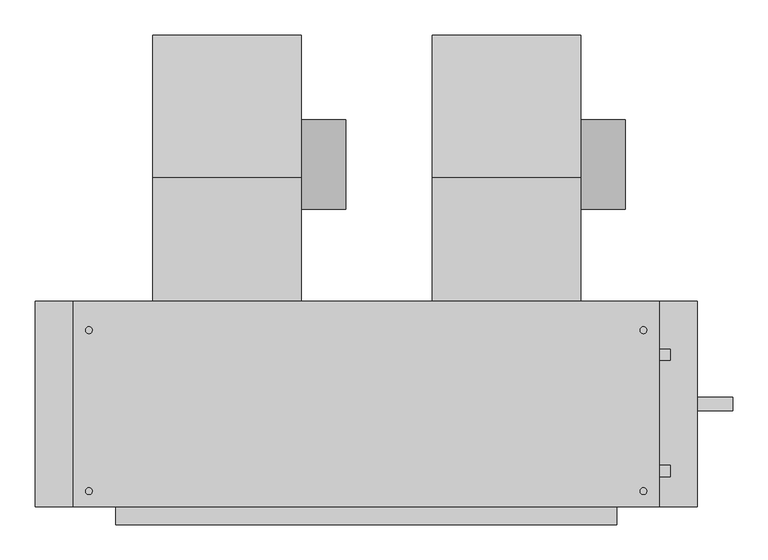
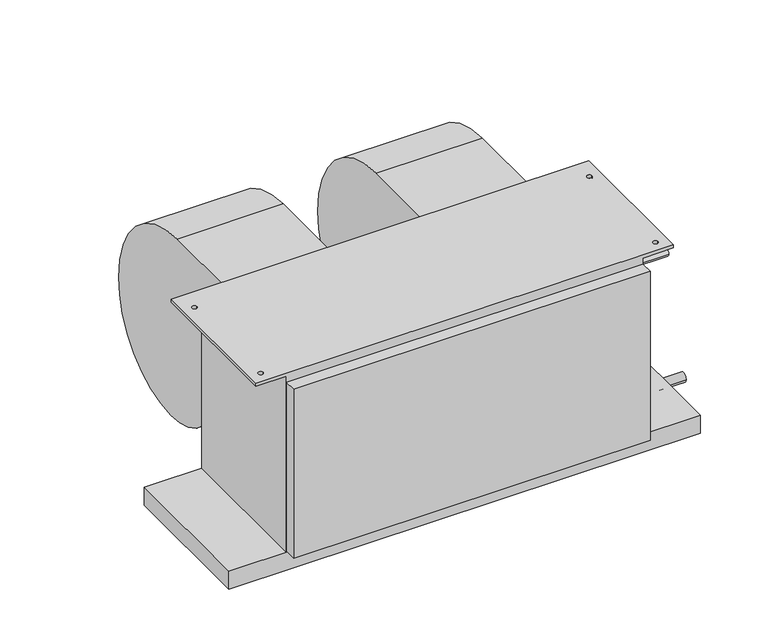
"""IFC4 building model written with IfcOpenShell, lengths in millimetres: proxy geometry, Concealed_High_Capacity_Horizontal_Fan_Coil_Unit_-_42DAA_-_CARRIER_-_2-Pipe_RH_2022 : Size 12 - 277v/60Hz/1Ph - 6 Row 9.0kW."""

from ifc_helpers import new_model, si_unit, point, frame, frame_2d, origin, place, context, project, spatial, polyline, circle_curve, trimmed, segment, composite_curve, outline, extrude, source, transform, mapped, element, save
from ifc_brep_helpers import plane_surface, cylinder_surface, revolved_surface, advanced_brep


def mechanical_equipment_be0efeef(model_context):
    return source(origin(), model_context, "Body", "SolidModel", [
        extrude(outline(composite_curve([segment(trimmed(circle_curve(frame_2d((102.0007598, -206.8897468)), 63.5), [point((165.5007598, -206.8897468))], [point((38.5007598, -206.8897468))], False, "CARTESIAN"), True, "CONTINUOUS"), segment(trimmed(circle_curve(frame_2d((102.0007598, -206.8897468)), 63.5), [point((38.5007598, -206.8897468))], [point((165.5007598, -206.8897468))], False, "CARTESIAN"), True, "CONTINUOUS")], self_intersect=False)), frame((60.325, 0.0, 0.0), z_axis=(1.0, 0.0, 0.0), x_axis=(0.0, 1.0, 0.0)), (0.0, 0.0, 1.0), 63.5),
        advanced_brep(
        [(-150.749, 285.5155957, -222.029602), (-150.749, 104.6226, -403.64664), (-150.749, -50.9016, -277.10638), (-150.749, -92.075, -277.10638), (-150.749, -92.075, -19.05), (-150.749, 83.0080093, -19.05), (60.325, 285.5155957, -222.029602), (60.325, 83.0080093, -19.05), (60.325, -92.075, -19.05), (60.325, -92.075, -277.10638), (60.325, -50.9016, -277.10638), (60.325, 104.622599, -403.6457839)],
        [
            (0, 1, circle_curve(frame((-150.749, 104.44226, -222.57258), z_axis=(-1.0, 0.0, 0.0), x_axis=(0.0, -1.0, 0.0)), 181.0741498)),
            (1, 2, circle_curve(frame((-150.749, 104.44226, -245.02364), z_axis=(-1.0, 0.0, 0.0), x_axis=(0.0, -1.0, 0.0)), 158.6222464)),
            (2, 3),
            (3, 4),
            (4, 5),
            (5, 0, circle_curve(frame((-150.749, 81.9912, -222.57258), z_axis=(-1.0, 0.0, 0.0), x_axis=(0.0, -1.0, 0.0)), 203.52512)),
            (6, 7, circle_curve(frame((60.325, 81.9912, -222.57258), z_axis=(1.0, 0.0, 0.0), x_axis=(0.0, -1.0, 0.0)), 203.52512)),
            (7, 8),
            (8, 9),
            (9, 10),
            (10, 11, circle_curve(frame((60.325, 104.44226, -245.02364), z_axis=(1.0, 0.0, 0.0), x_axis=(0.0, -1.0, 0.0)), 158.6222464)),
            (11, 6, circle_curve(frame((60.325, 104.44226, -222.57258), z_axis=(1.0, 0.0, 0.0), x_axis=(0.0, -1.0, 0.0)), 181.0741498)),
            (0, 6),
            (11, 1),
            (10, 2),
            (9, 3),
            (8, 4),
            (7, 5),
        ],
        [
            plane_surface(frame((-150.749, -76.6318898, -222.57258), z_axis=(-1.0, 0.0, 0.0), x_axis=(0.0, 0.0, 1.0))),
            plane_surface(frame((60.325, -76.6318898, -222.57258), z_axis=(1.0, 0.0, 0.0), x_axis=(0.0, 0.0, -1.0))),
            cylinder_surface(frame((60.325, 104.44226, -222.57258), z_axis=(-1.0, 0.0, 0.0), x_axis=(0.0, -1.0, 0.0)), 181.0741498),
            cylinder_surface(frame((60.325, 104.44226, -245.02364), z_axis=(-1.0, 0.0, 0.0), x_axis=(0.0, -1.0, 0.0)), 158.6222464),
            plane_surface(frame((-150.749, -50.9016, -277.10638), z_axis=(0.0, 0.0, -1.0), x_axis=(1.0, 0.0, 0.0))),
            plane_surface(frame((-150.749, -92.075, -277.10638), z_axis=(0.0, -1.0, 0.0), x_axis=(1.0, 0.0, 0.0))),
            plane_surface(frame((-150.749, -92.075, -19.05), z_axis=(0.0, 0.0, 1.0), x_axis=(1.0, 0.0, 0.0))),
            cylinder_surface(frame((60.325, 81.9912, -222.57258), z_axis=(-1.0, 0.0, 0.0), x_axis=(0.0, -1.0, 0.0)), 203.52512),
        ],
        [
            (0, [[1, 2, 3, 4, 5, 6]]),
            (1, [[7, 8, 9, 10, 11, 12]]),
            (2, [[-1, 13, -12, 14]]),
            (3, [[-2, -14, -11, 15]]),
            (4, [[-3, -15, -10, 16]]),
            (5, [[-4, -16, -9, 17]]),
            (6, [[-5, -17, -8, 18]]),
            (7, [[-6, -18, -7, -13]]),
        ],
    ),
        extrude(outline(composite_curve([segment(trimmed(circle_curve(frame_2d((102.0007598, -206.8897468)), 63.5), [point((165.5007598, -206.8897468))], [point((38.5007598, -206.8897468))], False, "CARTESIAN"), True, "CONTINUOUS"), segment(trimmed(circle_curve(frame_2d((102.0007598, -206.8897468)), 63.5), [point((38.5007598, -206.8897468))], [point((165.5007598, -206.8897468))], False, "CARTESIAN"), True, "CONTINUOUS")], self_intersect=False)), frame((457.2, 0.0, 0.0), z_axis=(1.0, 0.0, 0.0), x_axis=(0.0, 1.0, 0.0)), (0.0, 0.0, 1.0), 63.5),
        advanced_brep(
        [(246.126, 285.5155957, -222.029602), (246.126, 104.6226, -403.64664), (246.126, -50.9016, -277.10638), (246.126, -92.075, -277.10638), (246.126, -92.075, -19.05), (246.126, 83.0080093, -19.05), (457.2, 285.5155957, -222.029602), (457.2, 83.0080093, -19.05), (457.2, -92.075, -19.05), (457.2, -92.075, -277.10638), (457.2, -50.9016, -277.10638), (457.2, 104.622599, -403.6457839)],
        [
            (0, 1, circle_curve(frame((246.126, 104.44226, -222.57258), z_axis=(-1.0, 0.0, 0.0), x_axis=(0.0, -1.0, 0.0)), 181.0741498)),
            (1, 2, circle_curve(frame((246.126, 104.44226, -245.02364), z_axis=(-1.0, 0.0, 0.0), x_axis=(0.0, -1.0, 0.0)), 158.6222464)),
            (2, 3),
            (3, 4),
            (4, 5),
            (5, 0, circle_curve(frame((246.126, 81.9912, -222.57258), z_axis=(-1.0, 0.0, 0.0), x_axis=(0.0, -1.0, 0.0)), 203.52512)),
            (6, 7, circle_curve(frame((457.2, 81.9912, -222.57258), z_axis=(1.0, 0.0, 0.0), x_axis=(0.0, -1.0, 0.0)), 203.52512)),
            (7, 8),
            (8, 9),
            (9, 10),
            (10, 11, circle_curve(frame((457.2, 104.44226, -245.02364), z_axis=(1.0, 0.0, 0.0), x_axis=(0.0, -1.0, 0.0)), 158.6222464)),
            (11, 6, circle_curve(frame((457.2, 104.44226, -222.57258), z_axis=(1.0, 0.0, 0.0), x_axis=(0.0, -1.0, 0.0)), 181.0741498)),
            (0, 6),
            (11, 1),
            (10, 2),
            (9, 3),
            (8, 4),
            (7, 5),
        ],
        [
            plane_surface(frame((246.126, -76.6318898, -222.57258), z_axis=(-1.0, 0.0, 0.0), x_axis=(0.0, 0.0, 1.0))),
            plane_surface(frame((457.2, -76.6318898, -222.57258), z_axis=(1.0, 0.0, 0.0), x_axis=(0.0, 0.0, -1.0))),
            cylinder_surface(frame((457.2, 104.44226, -222.57258), z_axis=(-1.0, 0.0, 0.0), x_axis=(0.0, -1.0, 0.0)), 181.0741498),
            cylinder_surface(frame((457.2, 104.44226, -245.02364), z_axis=(-1.0, 0.0, 0.0), x_axis=(0.0, -1.0, 0.0)), 158.6222464),
            plane_surface(frame((246.126, -50.9016, -277.10638), z_axis=(0.0, 0.0, -1.0), x_axis=(1.0, 0.0, 0.0))),
            plane_surface(frame((246.126, -92.075, -277.10638), z_axis=(0.0, -1.0, 0.0), x_axis=(1.0, 0.0, 0.0))),
            plane_surface(frame((246.126, -92.075, -19.05), z_axis=(0.0, 0.0, 1.0), x_axis=(1.0, 0.0, 0.0))),
            cylinder_surface(frame((457.2, 81.9912, -222.57258), z_axis=(-1.0, 0.0, 0.0), x_axis=(0.0, -1.0, 0.0)), 203.52512),
        ],
        [
            (0, [[1, 2, 3, 4, 5, 6]]),
            (1, [[7, 8, 9, 10, 11, 12]]),
            (2, [[-1, 13, -12, 14]]),
            (3, [[-2, -14, -11, 15]]),
            (4, [[-3, -15, -10, 16]]),
            (5, [[-4, -16, -9, 17]]),
            (6, [[-5, -17, -8, 18]]),
            (7, [[-6, -18, -7, -13]]),
        ],
    ),
        advanced_brep(
        [(568.325, -92.075, -6.35), (568.325, -384.175, -6.35), (508.0, -384.175, -6.35), (508.0, -92.075, -6.35), (541.3375, -133.35, -6.35), (550.8625, -133.35, -6.35), (541.3375, -361.95, -6.35), (550.8625, -361.95, -6.35), (-263.525, -92.075, -6.35), (-203.2, -92.075, -6.35), (-203.2, -384.175, -6.35), (-263.525, -384.175, -6.35), (-246.0625, -133.35, -6.35), (-236.5375, -133.35, -6.35), (-246.0625, -361.95, -6.35), (-236.5375, -361.95, -6.35), (568.325, -384.175, 0.0), (568.325, -92.075, 0.0), (-263.525, -92.075, 0.0), (-263.525, -384.175, 0.0), (-236.5375, -133.35, 0.0), (-246.0625, -133.35, 0.0), (-236.5375, -361.95, 0.0), (-246.0625, -361.95, 0.0), (550.8625, -133.35, 0.0), (541.3375, -133.35, 0.0), (550.8625, -361.95, 0.0), (541.3375, -361.95, 0.0), (508.0, -92.075, -377.825), (-203.2, -92.075, -377.825), (-203.2, -384.175, -377.825), (508.0, -384.175, -377.825)],
        [
            (0, 1),
            (1, 2),
            (2, 3),
            (3, 0),
            (4, 5, circle_curve(frame((546.1, -133.35, -6.35), z_axis=(0.0, 0.0, 1.0), x_axis=(1.0, 0.0, 0.0)), 4.7625)),
            (5, 4, circle_curve(frame((546.1, -133.35, -6.35), z_axis=(0.0, 0.0, 1.0), x_axis=(1.0, 0.0, 0.0)), 4.7625)),
            (6, 7, circle_curve(frame((546.1, -361.95, -6.35), z_axis=(0.0, 0.0, 1.0), x_axis=(1.0, 0.0, 0.0)), 4.7625)),
            (7, 6, circle_curve(frame((546.1, -361.95, -6.35), z_axis=(0.0, 0.0, 1.0), x_axis=(1.0, 0.0, 0.0)), 4.7625)),
            (8, 9),
            (9, 10),
            (10, 11),
            (11, 8),
            (12, 13, circle_curve(frame((-241.3, -133.35, -6.35), z_axis=(0.0, 0.0, 1.0), x_axis=(1.0, 0.0, 0.0)), 4.7625)),
            (13, 12, circle_curve(frame((-241.3, -133.35, -6.35), z_axis=(0.0, 0.0, 1.0), x_axis=(1.0, 0.0, 0.0)), 4.7625)),
            (14, 15, circle_curve(frame((-241.3, -361.95, -6.35), z_axis=(0.0, 0.0, 1.0), x_axis=(1.0, 0.0, 0.0)), 4.7625)),
            (15, 14, circle_curve(frame((-241.3, -361.95, -6.35), z_axis=(0.0, 0.0, 1.0), x_axis=(1.0, 0.0, 0.0)), 4.7625)),
            (16, 17),
            (17, 18),
            (18, 19),
            (19, 16),
            (20, 21, circle_curve(frame((-241.3, -133.35, 0.0), z_axis=(0.0, 0.0, -1.0), x_axis=(1.0, 0.0, 0.0)), 4.7625)),
            (21, 20, circle_curve(frame((-241.3, -133.35, 0.0), z_axis=(0.0, 0.0, -1.0), x_axis=(1.0, 0.0, 0.0)), 4.7625)),
            (22, 23, circle_curve(frame((-241.3, -361.95, 0.0), z_axis=(0.0, 0.0, -1.0), x_axis=(1.0, 0.0, 0.0)), 4.7625)),
            (23, 22, circle_curve(frame((-241.3, -361.95, 0.0), z_axis=(0.0, 0.0, -1.0), x_axis=(1.0, 0.0, 0.0)), 4.7625)),
            (24, 25, circle_curve(frame((546.1, -133.35, 0.0), z_axis=(0.0, 0.0, -1.0), x_axis=(1.0, 0.0, 0.0)), 4.7625)),
            (25, 24, circle_curve(frame((546.1, -133.35, 0.0), z_axis=(0.0, 0.0, -1.0), x_axis=(1.0, 0.0, 0.0)), 4.7625)),
            (26, 27, circle_curve(frame((546.1, -361.95, 0.0), z_axis=(0.0, 0.0, -1.0), x_axis=(1.0, 0.0, 0.0)), 4.7625)),
            (27, 26, circle_curve(frame((546.1, -361.95, 0.0), z_axis=(0.0, 0.0, -1.0), x_axis=(1.0, 0.0, 0.0)), 4.7625)),
            (3, 28),
            (28, 29),
            (29, 9),
            (8, 18),
            (17, 0),
            (1, 16),
            (19, 11),
            (10, 30),
            (30, 31),
            (31, 2),
            (28, 31),
            (30, 29),
            (20, 13),
            (12, 21),
            (22, 15),
            (14, 23),
            (24, 5),
            (4, 25),
            (26, 7),
            (6, 27),
        ],
        [
            plane_surface(frame((508.0, -92.075, -6.35), z_axis=(0.0, 0.0, -1.0), x_axis=(1.0, 0.0, 0.0))),
            plane_surface(frame((508.0, -92.075, 0.0), z_axis=(0.0, 0.0, 1.0), x_axis=(-1.0, 0.0, 0.0))),
            plane_surface(frame((568.325, -92.075, 0.0), z_axis=(0.0, 1.0, 0.0), x_axis=(0.0, 0.0, -1.0))),
            plane_surface(frame((508.0, -384.175, 0.0), z_axis=(0.0, -1.0, 0.0), x_axis=(0.0, 0.0, -1.0))),
            plane_surface(frame((568.325, -384.175, 0.0), z_axis=(1.0, 0.0, 0.0), x_axis=(0.0, 0.0, -1.0))),
            plane_surface(frame((-263.525, -92.075, 0.0), z_axis=(-1.0, 0.0, 0.0), x_axis=(0.0, 0.0, -1.0))),
            plane_surface(frame((-203.2, -92.075, -377.825), z_axis=(0.0, 0.0, -1.0), x_axis=(1.0, 0.0, 0.0))),
            plane_surface(frame((-203.2, -92.075, 0.0), z_axis=(-1.0, 0.0, 0.0), x_axis=(0.0, 0.0, -1.0))),
            plane_surface(frame((508.0, -384.175, 0.0), z_axis=(1.0, 0.0, 0.0), x_axis=(0.0, 0.0, -1.0))),
            revolved_surface(polyline([(-236.53750000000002, -133.35, 0.0), (-236.53750000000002, -133.35, -6.35)]), (-241.3, -133.35, -6.35), (0.0, 0.0, 1.0)),
            revolved_surface(polyline([(-236.53750000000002, -361.95, 0.0), (-236.53750000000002, -361.95, -6.35)]), (-241.3, -361.95, 0.0), (0.0, 0.0, 1.0)),
            revolved_surface(polyline([(550.8625000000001, -133.35, 0.0), (550.8625000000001, -133.35, -6.35)]), (546.1, -133.35, 0.0), (0.0, 0.0, 1.0)),
            revolved_surface(polyline([(550.8625000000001, -361.95, 0.0), (550.8625000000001, -361.95, -6.35)]), (546.1, -361.95, 0.0), (0.0, 0.0, 1.0)),
        ],
        [
            (0, [[1, 2, 3, 4], [5, 6], [7, 8]]),
            (0, [[9, 10, 11, 12], [13, 14], [15, 16]]),
            (1, [[17, 18, 19, 20], [21, 22], [23, 24], [25, 26], [27, 28]]),
            (2, [[-4, 29, 30, 31, -9, 32, -18, 33]]),
            (3, [[-2, 34, -20, 35, -11, 36, 37, 38]]),
            (4, [[-1, -33, -17, -34]]),
            (5, [[-12, -35, -19, -32]]),
            (6, [[39, -37, 40, -30]]),
            (7, [[-40, -36, -10, -31]]),
            (8, [[-39, -29, -3, -38]]),
            (9, [[41, -13, 42, -21]]),
            (9, [[-41, -22, -42, -14]]),
            (10, [[43, -15, 44, -23]]),
            (10, [[-43, -24, -44, -16]]),
            (11, [[45, -5, 46, -25]]),
            (11, [[-45, -26, -46, -6]]),
            (12, [[47, -7, 48, -27]]),
            (12, [[-47, -28, -48, -8]]),
        ],
    ),
        extrude(outline(composite_curve([segment(trimmed(circle_curve(frame_2d((-238.125, -403.225)), 9.525), [point((-228.6, -403.225))], [point((-247.65, -403.225))], False, "CARTESIAN"), True, "CONTINUOUS"), segment(trimmed(circle_curve(frame_2d((-238.125, -403.225)), 9.525), [point((-247.65, -403.225))], [point((-228.6, -403.225))], False, "CARTESIAN"), True, "CONTINUOUS")], self_intersect=False)), frame((622.3, 0.0, 0.0), z_axis=(1.0, 0.0, 0.0), x_axis=(0.0, 1.0, 0.0)), (0.0, 0.0, 1.0), 50.8),
        extrude(outline(composite_curve([segment(trimmed(circle_curve(frame_2d((-333.375, -50.8)), 7.9375), [point((-325.4375, -50.8))], [point((-341.3125, -50.8))], False, "CARTESIAN"), True, "CONTINUOUS"), segment(trimmed(circle_curve(frame_2d((-333.375, -50.8)), 7.9375), [point((-341.3125, -50.8))], [point((-325.4375, -50.8))], False, "CARTESIAN"), True, "CONTINUOUS")], self_intersect=False)), frame((508.0, 0.0, 0.0), z_axis=(1.0, 0.0, 0.0), x_axis=(0.0, 1.0, 0.0)), (0.0, 0.0, 1.0), 76.2),
        extrude(outline(composite_curve([segment(trimmed(circle_curve(frame_2d((-168.275, -327.025)), 7.9375), [point((-160.3375, -327.025))], [point((-176.2125, -327.025))], False, "CARTESIAN"), True, "CONTINUOUS"), segment(trimmed(circle_curve(frame_2d((-168.275, -327.025)), 7.9375), [point((-176.2125, -327.025))], [point((-160.3375, -327.025))], False, "CARTESIAN"), True, "CONTINUOUS")], self_intersect=False)), frame((508.0, 0.0, 0.0), z_axis=(1.0, 0.0, 0.0), x_axis=(0.0, 1.0, 0.0)), (0.0, 0.0, 1.0), 76.2),
        extrude(outline(polyline([(508.0, -409.575), (-203.2, -409.575), (-203.2, -384.175), (508.0, -384.175), (508.0, -409.575)])), frame((0.0, 0.0, -374.65), z_axis=(0.0, 0.0, 1.0), x_axis=(1.0, 0.0, 0.0)), (0.0, 0.0, 1.0), 355.6),
        extrude(outline(polyline([(622.3, -92.075), (622.3, -384.175), (-317.5, -384.175), (-317.5, -92.075), (622.3, -92.075)])), frame((0.0, 0.0, -415.925), z_axis=(0.0, 0.0, 1.0), x_axis=(1.0, 0.0, 0.0)), (0.0, 0.0, 1.0), 38.1),
    ])


if __name__ == "__main__":
    model = new_model("IFC4")
    model_context = context("Model", 3, world=origin())
    ifc_project = project(units=[si_unit("LENGTHUNIT", "METRE", prefix="MILLI")], contexts=[model_context])
    site = spatial("IfcSite", under=ifc_project)
    building = spatial("IfcBuilding", under=site)
    placement = place(None, origin())
    mechanical_equipment_shape = mechanical_equipment_be0efeef(model_context)
    element("IfcBuildingElementProxy", 1, Name="Concealed_High_Capacity_Horizontal_Fan_Coil_Unit_-_42DAA_-_CARRIER_-_2-Pipe_RH_2022 : Size 12 - 277v/60Hz/1Ph - 6 Row 9.0kW", ObjectType="Concealed_High_Capacity_Horizontal_Fan_Coil_Unit_-_42DAA_-_CARRIER_-_2-Pipe_RH_2022 : Size 12 - 277v/60Hz/1Ph - 6 Row 9.0kW", at=placement, inside=building, context=model_context, shape_type="MappedRepresentation", body=[
        mapped(mechanical_equipment_shape, transform((0.0, 0.0, 0.0), x_axis=(1.0, 0.0, 0.0), y_axis=(0.0, 1.0, 0.0), z_axis=(0.0, 0.0, 1.0))),
    ])
    save(model, "model.ifc")
